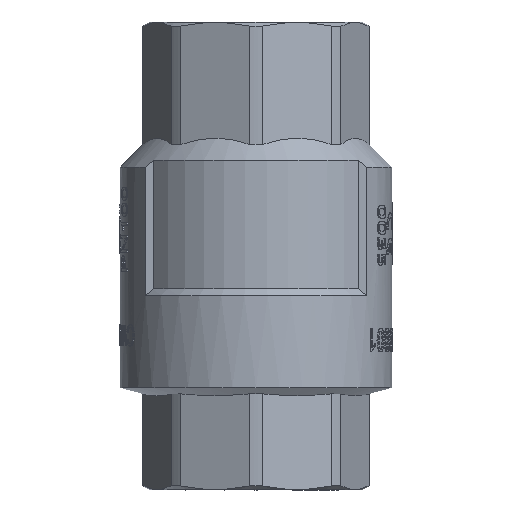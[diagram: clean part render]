
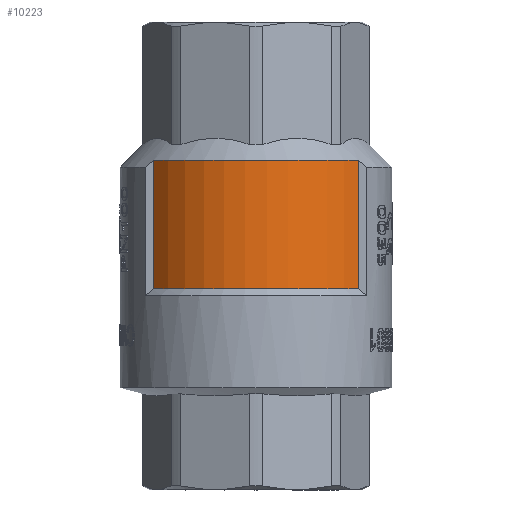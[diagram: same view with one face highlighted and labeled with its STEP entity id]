
A CAD part, front view. The second image highlights one B-rep face of the part: STEP entity #10223.
In plain terms, the highlighted cylindrical face has radius 19.619 mm (diameter 39.237 mm), a partial arc.
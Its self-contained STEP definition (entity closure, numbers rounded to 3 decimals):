
#674=CIRCLE('',#10734,19.619);
#677=CIRCLE('',#10739,19.619);
#1298=FACE_OUTER_BOUND('',#1927,.T.);
#1927=EDGE_LOOP('',(#9084,#9085,#9086,#9087));
#3162=LINE('',#27453,#3851);
#3163=LINE('',#27456,#3852);
#3851=VECTOR('',#12291,10.);
#3852=VECTOR('',#12294,10.);
#4825=VERTEX_POINT('',#27407);
#4826=VERTEX_POINT('',#27411);
#4830=VERTEX_POINT('',#27452);
#4831=VERTEX_POINT('',#27454);
#6275=EDGE_CURVE('',#4826,#4825,#674,.T.);
#6282=EDGE_CURVE('',#4825,#4830,#3162,.T.);
#6283=EDGE_CURVE('',#4831,#4830,#677,.T.);
#6284=EDGE_CURVE('',#4831,#4826,#3163,.T.);
#9084=ORIENTED_EDGE('',*,*,#6282,.T.);
#9085=ORIENTED_EDGE('',*,*,#6283,.F.);
#9086=ORIENTED_EDGE('',*,*,#6284,.T.);
#9087=ORIENTED_EDGE('',*,*,#6275,.T.);
#9714=CYLINDRICAL_SURFACE('',#10738,19.619);
#10223=ADVANCED_FACE('',(#1298),#9714,.T.);
#10734=AXIS2_PLACEMENT_3D('',#27412,#12279,#12280);
#10738=AXIS2_PLACEMENT_3D('',#27451,#12289,#12290);
#10739=AXIS2_PLACEMENT_3D('',#27455,#12292,#12293);
#12279=DIRECTION('center_axis',(0.,0.,1.));
#12280=DIRECTION('ref_axis',(1.,0.,0.));
#12289=DIRECTION('center_axis',(0.,0.,1.));
#12290=DIRECTION('ref_axis',(0.,-1.,0.));
#12291=DIRECTION('',(0.,0.,1.));
#12292=DIRECTION('center_axis',(0.,0.,1.));
#12293=DIRECTION('ref_axis',(1.,0.,0.));
#12294=DIRECTION('',(0.,0.,-1.));
#27407=CARTESIAN_POINT('',(15.521,-12.,-5.));
#27411=CARTESIAN_POINT('',(-15.521,-12.,-5.));
#27412=CARTESIAN_POINT('Origin',(0.,0.,-5.));
#27451=CARTESIAN_POINT('Origin',(0.,0.,4.75));
#27452=CARTESIAN_POINT('',(15.521,-12.,14.5));
#27453=CARTESIAN_POINT('',(15.521,-12.,4.75));
#27454=CARTESIAN_POINT('',(-15.521,-12.,14.5));
#27455=CARTESIAN_POINT('Origin',(0.,0.,14.5));
#27456=CARTESIAN_POINT('',(-15.521,-12.,4.75));
